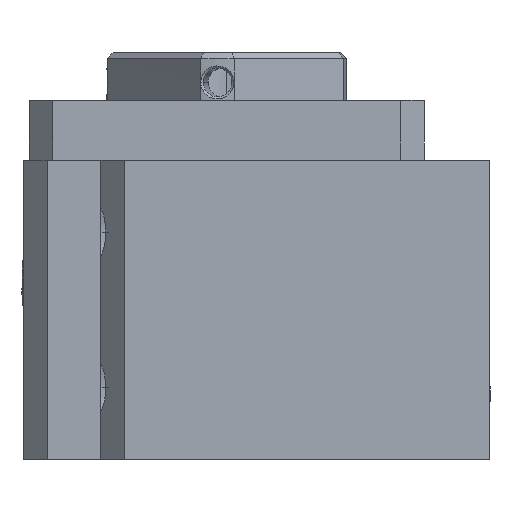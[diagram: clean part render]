
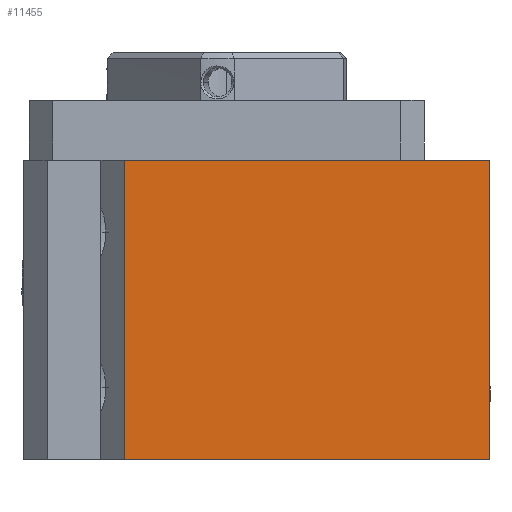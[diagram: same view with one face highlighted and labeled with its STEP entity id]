
A CAD part, left-side view. The second image highlights one B-rep face of the part: STEP entity #11455.
In plain terms, the highlighted planar face has unit normal (-1, 0, 0).
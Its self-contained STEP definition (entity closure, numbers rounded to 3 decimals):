
#897 = EDGE_LOOP ( 'NONE', ( #9082, #5339, #4136, #1545 ) ) ;
#1545 = ORIENTED_EDGE ( 'NONE', *, *, #13452, .F. ) ;
#1853 = CARTESIAN_POINT ( 'NONE',  ( -59.435, -29.513, 12.5 ) ) ;
#2540 = FACE_OUTER_BOUND ( 'NONE', #897, .T. ) ;
#2678 = AXIS2_PLACEMENT_3D ( 'NONE', #10145, #8549, #8759 ) ;
#3596 = CARTESIAN_POINT ( 'NONE',  ( -59.435, -9.18, 12.5 ) ) ;
#3636 = CARTESIAN_POINT ( 'NONE',  ( -59.435, -9.18, 4.167 ) ) ;
#3733 = B_SPLINE_CURVE_WITH_KNOTS ( 'NONE', 3,
 ( #17878, #1853, #8258, #3596 ),
 .UNSPECIFIED., .F., .F.,
 ( 4, 4 ),
 ( 0., 1. ),
 .UNSPECIFIED. ) ;
#3856 = VERTEX_POINT ( 'NONE', #13110 ) ;
#4136 = ORIENTED_EDGE ( 'NONE', *, *, #10335, .F. ) ;
#5339 = ORIENTED_EDGE ( 'NONE', *, *, #6296, .T. ) ;
#6296 = EDGE_CURVE ( 'NONE', #16632, #3856, #8324, .T. ) ;
#6769 = CARTESIAN_POINT ( 'NONE',  ( -59.435, -9.18, -12.5 ) ) ;
#7287 = CARTESIAN_POINT ( 'NONE',  ( -59.435, -39.68, -12.5 ) ) ;
#8258 = CARTESIAN_POINT ( 'NONE',  ( -59.435, -19.347, 12.5 ) ) ;
#8324 = B_SPLINE_CURVE_WITH_KNOTS ( 'NONE', 3,
 ( #16343, #3636, #14662, #6769 ),
 .UNSPECIFIED., .F., .F.,
 ( 4, 4 ),
 ( 0., 1. ),
 .UNSPECIFIED. ) ;
#8549 = DIRECTION ( 'NONE',  ( 1., 0., 0. ) ) ;
#8759 = DIRECTION ( 'NONE',  ( 0., 1., 0. ) ) ;
#9079 = CARTESIAN_POINT ( 'NONE',  ( -59.435, -19.347, -12.5 ) ) ;
#9082 = ORIENTED_EDGE ( 'NONE', *, *, #9936, .T. ) ;
#9183 = CARTESIAN_POINT ( 'NONE',  ( -59.435, -39.68, -12.5 ) ) ;
#9554 = CARTESIAN_POINT ( 'NONE',  ( -59.435, -39.68, 12.5 ) ) ;
#9936 = EDGE_CURVE ( 'NONE', #14469, #16632, #3733, .T. ) ;
#10145 = CARTESIAN_POINT ( 'NONE',  ( -59.435, -39.68, 12.5 ) ) ;
#10335 = EDGE_CURVE ( 'NONE', #10747, #3856, #17646, .T. ) ;
#10747 = VERTEX_POINT ( 'NONE', #7287 ) ;
#11420 = CARTESIAN_POINT ( 'NONE',  ( -59.435, -39.68, -12.5 ) ) ;
#11455 = ADVANCED_FACE ( 'NONE', ( #2540 ), #17993, .F. ) ;
#12901 = CARTESIAN_POINT ( 'NONE',  ( -59.435, -39.68, 4.167 ) ) ;
#13110 = CARTESIAN_POINT ( 'NONE',  ( -59.435, -9.18, -12.5 ) ) ;
#13452 = EDGE_CURVE ( 'NONE', #14469, #10747, #13765, .T. ) ;
#13765 = B_SPLINE_CURVE_WITH_KNOTS ( 'NONE', 3,
 ( #9554, #12901, #14242, #11420 ),
 .UNSPECIFIED., .F., .F.,
 ( 4, 4 ),
 ( 0., 1. ),
 .UNSPECIFIED. ) ;
#13962 = CARTESIAN_POINT ( 'NONE',  ( -59.435, -9.18, 12.5 ) ) ;
#14193 = CARTESIAN_POINT ( 'NONE',  ( -59.435, -9.18, -12.5 ) ) ;
#14242 = CARTESIAN_POINT ( 'NONE',  ( -59.435, -39.68, -4.167 ) ) ;
#14469 = VERTEX_POINT ( 'NONE', #14946 ) ;
#14662 = CARTESIAN_POINT ( 'NONE',  ( -59.435, -9.18, -4.167 ) ) ;
#14946 = CARTESIAN_POINT ( 'NONE',  ( -59.435, -39.68, 12.5 ) ) ;
#15458 = CARTESIAN_POINT ( 'NONE',  ( -59.435, -29.513, -12.5 ) ) ;
#16343 = CARTESIAN_POINT ( 'NONE',  ( -59.435, -9.18, 12.5 ) ) ;
#16632 = VERTEX_POINT ( 'NONE', #13962 ) ;
#17646 = B_SPLINE_CURVE_WITH_KNOTS ( 'NONE', 3,
 ( #9183, #15458, #9079, #14193 ),
 .UNSPECIFIED., .F., .F.,
 ( 4, 4 ),
 ( 0., 1. ),
 .UNSPECIFIED. ) ;
#17878 = CARTESIAN_POINT ( 'NONE',  ( -59.435, -39.68, 12.5 ) ) ;
#17993 = PLANE ( 'NONE',  #2678 ) ;
